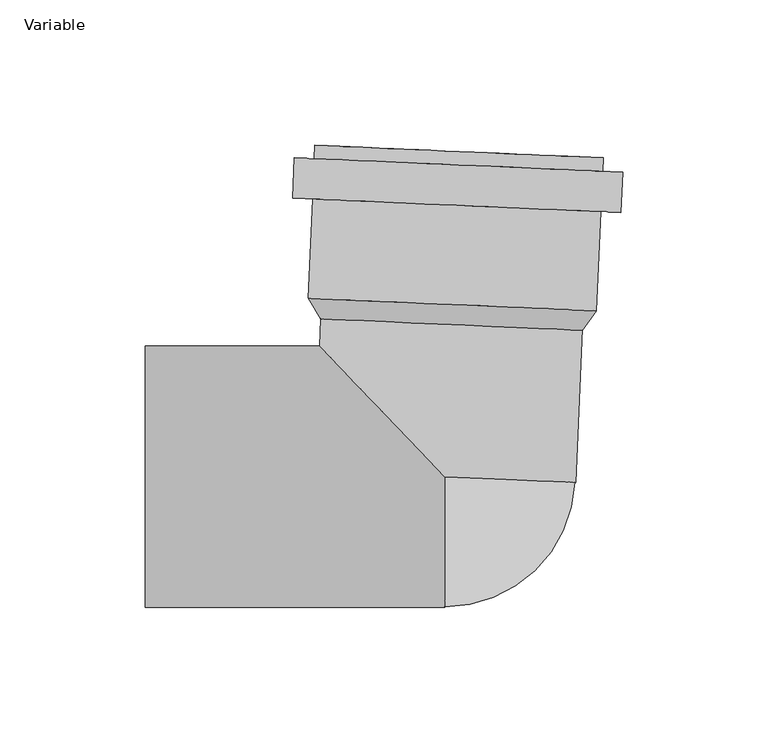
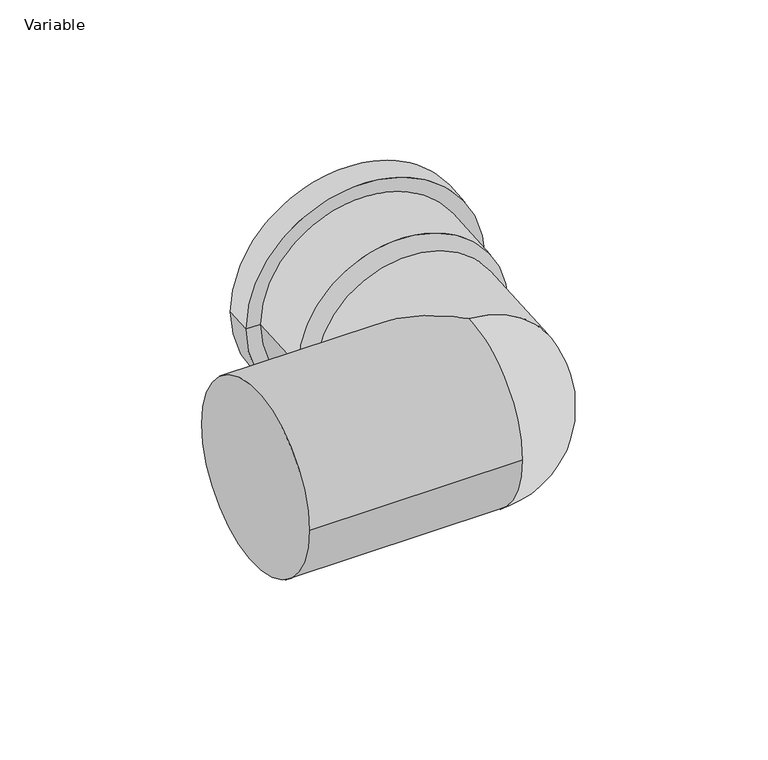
"""IFC4 building model written with IfcOpenShell, lengths in millimetres: pipe fitting geometry, AliaxisFR_Friaphon_ElbowMF_FR : Variable."""

from ifc_helpers import new_model, si_unit, point, frame, origin, place, context, project, spatial, polyline, circle_curve, ellipse_curve, trimmed, source, transform, mapped, element, save
from ifc_brep_helpers import plane_surface, cylinder_surface, revolved_surface, advanced_brep


def variable_bc2e0010(model_context):
    return source(origin(), model_context, "Body", "AdvancedBrep", [
        advanced_brep(
        [(54.4381632, 109.7298792, 0.0), (-44.6674204, 114.0569224, 0.0), (-40.0717986, 113.8562732, 0.0), (49.8425414, 109.9305284, 0.0), (60.5246372, 90.9465133, 0.0), (-52.3678118, 95.8755041, 0.0), (-51.7615023, 109.7622744, 0.0), (61.1309467, 104.8332836, 0.0), (53.6312045, 91.2474871, 0.0), (-45.4743791, 95.5745303, 0.0), (52.1394215, 57.0800379, 0.0), (-46.9661621, 61.4070812, 0.0), (-42.6715141, 54.3129992, 0.0), (47.2428259, 50.3872544, 0.0), (54.237514, 105.1342574, 0.0), (-44.8680696, 109.4613006, 0.0)],
        [
            (0, 1, circle_curve(frame((4.8853714, 111.8934008, 0.0), z_axis=(0.0436193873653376, 0.9990482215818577, 0.0), x_axis=(-0.9990482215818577, 0.0436193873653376, 0.0)), 49.6)),
            (1, 2),
            (2, 3, circle_curve(frame((4.8853714, 111.8934008, 0.0), z_axis=(-0.0436193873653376, -0.9990482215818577, 0.0), x_axis=(-0.9990482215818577, 0.0436193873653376, 0.0)), 45.0)),
            (3, 0),
            (1, 0, circle_curve(frame((4.8853714, 111.8934008, 0.0), z_axis=(0.0436193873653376, 0.9990482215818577, 0.0), x_axis=(-0.9990482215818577, 0.0436193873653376, 0.0)), 49.6)),
            (3, 2, circle_curve(frame((4.8853714, 111.8934008, 0.0), z_axis=(-0.0436193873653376, -0.9990482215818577, 0.0), x_axis=(-0.9990482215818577, 0.0436193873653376, 0.0)), 45.0)),
            (4, 5, circle_curve(frame((4.0784127, 93.4110087, 0.0), z_axis=(0.0436193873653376, 0.9990482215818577, 0.0), x_axis=(-0.9990482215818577, 0.0436193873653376, 0.0)), 56.5)),
            (5, 6),
            (6, 7, circle_curve(frame((4.6847222, 107.297779, 0.0), z_axis=(-0.0436193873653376, -0.9990482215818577, 0.0), x_axis=(-0.9990482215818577, 0.0436193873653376, 0.0)), 56.5)),
            (7, 4),
            (5, 4, circle_curve(frame((4.0784127, 93.4110087, 0.0), z_axis=(0.0436193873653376, 0.9990482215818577, 0.0), x_axis=(-0.9990482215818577, 0.0436193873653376, 0.0)), 56.5)),
            (7, 6, circle_curve(frame((4.6847222, 107.297779, 0.0), z_axis=(-0.0436193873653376, -0.9990482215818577, 0.0), x_axis=(-0.9990482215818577, 0.0436193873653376, 0.0)), 56.5)),
            (8, 9, circle_curve(frame((4.0784127, 93.4110087, 0.0), z_axis=(0.0436193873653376, 0.9990482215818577, 0.0), x_axis=(-0.9990482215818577, 0.0436193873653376, 0.0)), 49.6)),
            (9, 5),
            (4, 8),
            (9, 8, circle_curve(frame((4.0784127, 93.4110087, 0.0), z_axis=(0.0436193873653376, 0.9990482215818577, 0.0), x_axis=(-0.9990482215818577, 0.0436193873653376, 0.0)), 49.6)),
            (10, 11, circle_curve(frame((2.5866297, 59.2435595, 0.0), z_axis=(0.0436193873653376, 0.9990482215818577, 0.0), x_axis=(-0.9990482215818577, 0.0436193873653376, 0.0)), 49.6)),
            (11, 9),
            (8, 10),
            (11, 10, circle_curve(frame((2.5866297, 59.2435595, 0.0), z_axis=(0.0436193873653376, 0.9990482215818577, 0.0), x_axis=(-0.9990482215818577, 0.0436193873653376, 0.0)), 49.6)),
            (2, 12),
            (12, 13, circle_curve(frame((2.2856559, 52.3501268, 0.0), z_axis=(-0.0436193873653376, -0.9990482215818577, 0.0), x_axis=(-0.9990482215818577, 0.0436193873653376, 0.0)), 45.0)),
            (13, 3),
            (13, 12, circle_curve(frame((2.2856559, 52.3501268, 0.0), z_axis=(-0.0436193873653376, -0.9990482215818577, 0.0), x_axis=(-0.9990482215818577, 0.0436193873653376, 0.0)), 45.0)),
            (12, 11),
            (10, 13),
            (14, 15, circle_curve(frame((4.6847222, 107.297779, 0.0), z_axis=(0.0436193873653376, 0.9990482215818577, 0.0), x_axis=(-0.9990482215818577, 0.0436193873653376, 0.0)), 49.6)),
            (15, 1),
            (0, 14),
            (15, 14, circle_curve(frame((4.6847222, 107.297779, 0.0), z_axis=(0.0436193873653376, 0.9990482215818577, 0.0), x_axis=(-0.9990482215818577, 0.0436193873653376, 0.0)), 49.6)),
            (6, 15),
            (14, 7),
        ],
        [
            plane_surface(frame((4.8853714, 111.8934008, 0.0), z_axis=(0.0436193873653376, 0.9990482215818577, 0.0), x_axis=(-0.9990482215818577, 0.0436193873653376, 0.0))),
            cylinder_surface(frame((2.2856559, 52.3501268, 0.0), z_axis=(-0.0436193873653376, -0.9990482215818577, 0.0), x_axis=(-0.9990482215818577, 0.0436193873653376, 0.0)), 56.5),
            plane_surface(frame((4.0784127, 93.4110087, 0.0), z_axis=(-0.0436193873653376, -0.9990482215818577, 0.0), x_axis=(-0.9990482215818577, 0.0436193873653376, 0.0))),
            cylinder_surface(frame((2.2856559, 52.3501268, 0.0), z_axis=(-0.0436193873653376, -0.9990482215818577, 0.0), x_axis=(-0.9990482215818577, 0.0436193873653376, 0.0)), 49.6),
            revolved_surface(polyline([(-42.67151407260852, 54.31299919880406, 0.0), (-40.07179858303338, 113.8562732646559, 0.0)]), (2.2856559, 52.3501268, 0.0), (-0.0436193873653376, -0.9990482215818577, 0.0)),
            revolved_surface(polyline([(-46.9661621, 61.4070812, 0.0), (-42.6715141, 54.3129992, 0.0)]), (2.2856559, 52.3501268, 0.0), (-0.0436193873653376, -0.9990482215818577, 0.0)),
            plane_surface(frame((4.6847222, 107.297779, 0.0), z_axis=(0.0436193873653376, 0.9990482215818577, 0.0), x_axis=(-0.9990482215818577, 0.0436193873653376, 0.0))),
        ],
        [
            (0, [[1, 2, 3, 4]]),
            (0, [[5, -4, 6, -2]]),
            (1, [[7, 8, 9, 10]]),
            (1, [[11, -10, 12, -8]]),
            (2, [[13, 14, -7, 15]]),
            (2, [[16, -15, -11, -14]]),
            (3, [[17, 18, -13, 19]]),
            (3, [[20, -19, -16, -18]]),
            (4, [[-3, 21, 22, 23]]),
            (4, [[-6, -23, 24, -21]]),
            (5, [[-22, 25, -17, 26]]),
            (5, [[-24, -26, -20, -25]]),
            (3, [[27, 28, -1, 29]]),
            (3, [[30, -29, -5, -28]]),
            (6, [[-9, 31, -27, 32]]),
            (6, [[-12, -32, -30, -31]]),
        ],
    ),
        advanced_brep(
        [(-42.4708649, 58.9086211, 0.0), (2.4863051, 56.9457486, 45.0), (47.4434751, 54.9828762, 0.0), (2.4863051, 56.9457486, -45.0), (44.95717, -1.9628724, 0.0), (-43.0781284, 45.0, 0.0), (0.0, 0.0, 45.0), (0.0, 0.0, -45.0), (-103.0, -45.0, 0.0), (-103.0, 45.0, 0.0), (0.0, -45.0, 0.0)],
        [
            (0, 1, circle_curve(frame((2.4863051, 56.9457486, 0.0), z_axis=(0.04361938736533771, 0.9990482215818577, 0.0), x_axis=(-0.9990482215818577, 0.04361938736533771, 0.0)), 45.0)),
            (1, 2, circle_curve(frame((2.4863051, 56.9457486, 0.0), z_axis=(0.04361938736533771, 0.9990482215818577, 0.0), x_axis=(-0.9990482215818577, 0.04361938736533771, 0.0)), 45.0)),
            (2, 3, circle_curve(frame((2.4863051, 56.9457486, 0.0), z_axis=(0.04361938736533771, 0.9990482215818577, 0.0), x_axis=(-0.9990482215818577, 0.04361938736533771, 0.0)), 45.0)),
            (3, 0, circle_curve(frame((2.4863051, 56.9457486, 0.0), z_axis=(0.04361938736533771, 0.9990482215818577, 0.0), x_axis=(-0.9990482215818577, 0.04361938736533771, 0.0)), 45.0)),
            (4, 2),
            (0, 5),
            (5, 6, ellipse_curve(frame((0.0, 0.0, 0.0), z_axis=(0.7223639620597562, 0.6915130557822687, 0.0), x_axis=(0.6915130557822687, -0.7223639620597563, 0.0)), 62.2954665, 45.0)),
            (6, 4, circle_curve(frame((0.0, 0.0, 0.0), z_axis=(0.04361938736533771, 0.9990482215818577, 0.0), x_axis=(-0.9990482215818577, 0.04361938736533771, 0.0)), 45.0)),
            (4, 7, circle_curve(frame((0.0, 0.0, 0.0), z_axis=(0.04361938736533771, 0.9990482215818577, 0.0), x_axis=(-0.9990482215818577, 0.04361938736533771, 0.0)), 45.0)),
            (7, 5, ellipse_curve(frame((0.0, 0.0, 0.0), z_axis=(0.7223639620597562, 0.6915130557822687, 0.0), x_axis=(0.6915130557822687, -0.7223639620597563, 0.0)), 62.2954665, 45.0)),
            (8, 9, circle_curve(frame((-103.0, 0.0, 0.0), z_axis=(-1.0, 0.0, 0.0), x_axis=(0.0, 1.0, 0.0)), 45.0)),
            (9, 8, circle_curve(frame((-103.0, 0.0, 0.0), z_axis=(-1.0, 0.0, 0.0), x_axis=(0.0, 1.0, 0.0)), 45.0)),
            (8, 10),
            (10, 6, circle_curve(frame((0.0, 0.0, 0.0), z_axis=(-1.0, 0.0, 0.0), x_axis=(0.0, 1.0, 0.0)), 45.0)),
            (5, 9),
            (7, 10, circle_curve(frame((0.0, 0.0, 0.0), z_axis=(-1.0, 0.0, 0.0), x_axis=(0.0, 1.0, 0.0)), 45.0)),
        ],
        [
            plane_surface(frame((2.4863051, 56.9457486, 0.0), z_axis=(0.043619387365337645, 0.9990482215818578, 0.0), x_axis=(0.0, 0.0, 1.0))),
            cylinder_surface(frame((0.0, 0.0, 0.0), z_axis=(-0.04361938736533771, -0.9990482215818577, 0.0), x_axis=(-0.9990482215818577, 0.04361938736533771, 0.0)), 45.0),
            plane_surface(frame((-103.0, 0.0, 0.0), z_axis=(-1.0, 0.0, 0.0), x_axis=(0.0, 0.0, 1.0))),
            cylinder_surface(frame((-103.0, 0.0, 0.0), z_axis=(-1.0, 0.0, 0.0), x_axis=(0.0, 1.0, 0.0)), 45.0),
            revolved_surface(trimmed(ellipse_curve(frame((0.0, 0.0, 0.0), z_axis=(0.0436193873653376, 0.9990482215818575, 0.0), x_axis=(-0.9990482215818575, 0.0436193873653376, 0.0)), 45.0, 45.0), [point((0.0, 0.0, 45.0))], [point((0.0, 0.0, -45.0))], True, "CARTESIAN"), (0.0, 0.0, 45.0), (0.0, 0.0, -1.0)),
        ],
        [
            (0, [[1, 2, 3, 4]]),
            (1, [[5, -2, -1, 6, 7, 8]]),
            (1, [[-5, 9, 10, -6, -4, -3]]),
            (2, [[11, 12]]),
            (3, [[-11, 13, 14, -7, 15]]),
            (3, [[-12, -15, -10, 16, -13]]),
            (4, [[-14, -16, -9, -8]]),
        ],
    ),
    ])


if __name__ == "__main__":
    model = new_model("IFC4")
    model_context = context("Model", 3, world=origin())
    ifc_project = project(units=[si_unit("LENGTHUNIT", "METRE", prefix="MILLI")], contexts=[model_context])
    site = spatial("IfcSite", under=ifc_project)
    building = spatial("IfcBuilding", under=site)
    placement = place(None, origin())
    variable_shape = variable_bc2e0010(model_context)
    element("IfcPipeFitting", 1, ObjectType="AliaxisFR_Friaphon_ElbowMF_FR : Variable", at=placement, inside=building, context=model_context, shape_type="MappedRepresentation", body=[
        mapped(variable_shape, transform((0.0, 0.0, 0.0), x_axis=(1.0, 0.0, 0.0), y_axis=(0.0, 1.0, 0.0), z_axis=(0.0, 0.0, 1.0))),
    ])
    save(model, "model.ifc")
